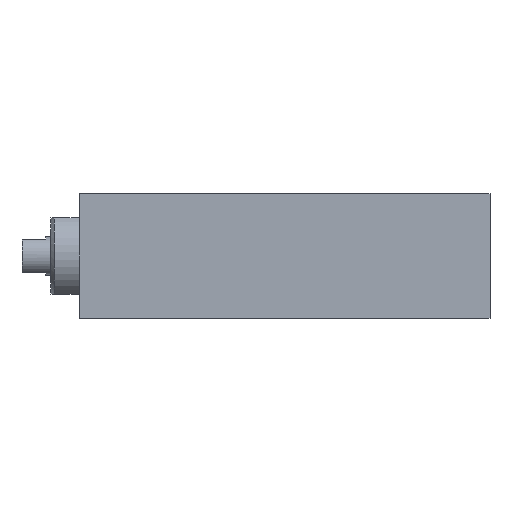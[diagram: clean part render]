
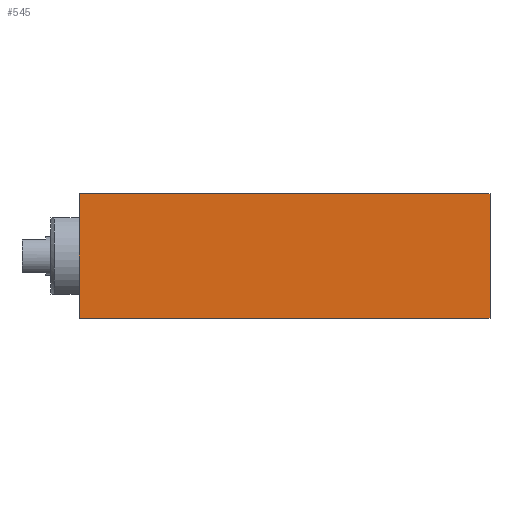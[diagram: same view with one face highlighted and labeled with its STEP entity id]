
A CAD part, front view. The second image highlights one B-rep face of the part: STEP entity #545.
In plain terms, the highlighted planar face has unit normal (0, -1, 0).
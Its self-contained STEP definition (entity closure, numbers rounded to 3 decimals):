
#95 = CARTESIAN_POINT ( 'NONE',  ( 43., -10., 6.5 ) ) ;
#266 = CARTESIAN_POINT ( 'NONE',  ( 43., -10., 6.5 ) ) ;
#281 = DIRECTION ( 'NONE',  ( 0., 0., 1. ) ) ;
#424 = EDGE_CURVE ( 'NONE', #625, #2371, #2436, .T. ) ;
#431 = CARTESIAN_POINT ( 'NONE',  ( 0., -10., -6.5 ) ) ;
#480 = FACE_OUTER_BOUND ( 'NONE', #950, .T. ) ;
#501 = DIRECTION ( 'NONE',  ( -1., 0., 0. ) ) ;
#545 = ADVANCED_FACE ( 'NONE', ( #480 ), #1409, .T. ) ;
#616 = VECTOR ( 'NONE', #501, 1000. ) ;
#625 = VERTEX_POINT ( 'NONE', #2300 ) ;
#701 = EDGE_CURVE ( 'NONE', #1558, #625, #2608, .T. ) ;
#719 = DIRECTION ( 'NONE',  ( 1., 0., 0. ) ) ;
#948 = DIRECTION ( 'NONE',  ( 0., -1., 0. ) ) ;
#950 = EDGE_LOOP ( 'NONE', ( #1996, #2143, #2698, #1336 ) ) ;
#1222 = EDGE_CURVE ( 'NONE', #1558, #2775, #2251, .T. ) ;
#1323 = DIRECTION ( 'NONE',  ( 0., 0., 1. ) ) ;
#1336 = ORIENTED_EDGE ( 'NONE', *, *, #2323, .T. ) ;
#1375 = LINE ( 'NONE', #266, #616 ) ;
#1409 = PLANE ( 'NONE',  #2410 ) ;
#1558 = VERTEX_POINT ( 'NONE', #2489 ) ;
#1663 = CARTESIAN_POINT ( 'NONE',  ( 0., -10., 6.5 ) ) ;
#1733 = VECTOR ( 'NONE', #1323, 1000. ) ;
#1744 = CARTESIAN_POINT ( 'NONE',  ( 43., -10., -6.5 ) ) ;
#1996 = ORIENTED_EDGE ( 'NONE', *, *, #424, .F. ) ;
#2093 = CARTESIAN_POINT ( 'NONE',  ( 43., -10., -6.5 ) ) ;
#2143 = ORIENTED_EDGE ( 'NONE', *, *, #701, .F. ) ;
#2251 = LINE ( 'NONE', #2298, #2811 ) ;
#2277 = VECTOR ( 'NONE', #2592, 1000. ) ;
#2298 = CARTESIAN_POINT ( 'NONE',  ( 43., -10., -6.5 ) ) ;
#2300 = CARTESIAN_POINT ( 'NONE',  ( 0., -10., -6.5 ) ) ;
#2323 = EDGE_CURVE ( 'NONE', #2775, #2371, #1375, .T. ) ;
#2371 = VERTEX_POINT ( 'NONE', #1663 ) ;
#2410 = AXIS2_PLACEMENT_3D ( 'NONE', #2093, #948, #719 ) ;
#2436 = LINE ( 'NONE', #431, #1733 ) ;
#2489 = CARTESIAN_POINT ( 'NONE',  ( 43., -10., -6.5 ) ) ;
#2592 = DIRECTION ( 'NONE',  ( -1., 0., 0. ) ) ;
#2608 = LINE ( 'NONE', #1744, #2277 ) ;
#2698 = ORIENTED_EDGE ( 'NONE', *, *, #1222, .T. ) ;
#2775 = VERTEX_POINT ( 'NONE', #95 ) ;
#2811 = VECTOR ( 'NONE', #281, 1000. ) ;
